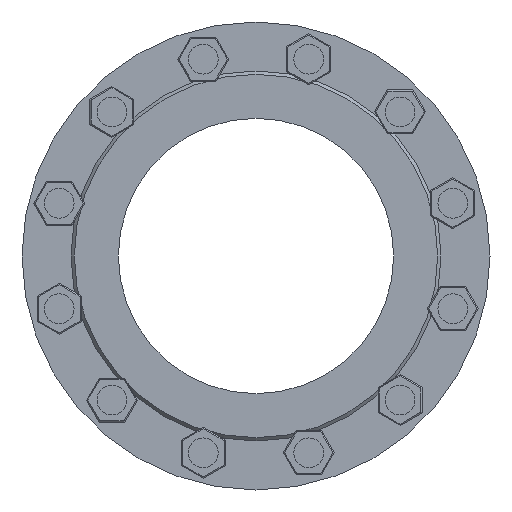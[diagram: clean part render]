
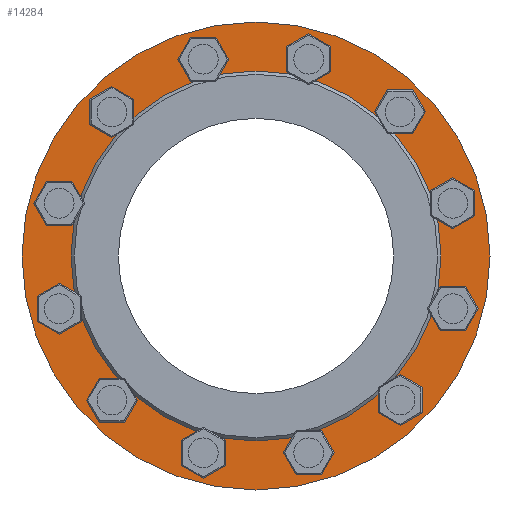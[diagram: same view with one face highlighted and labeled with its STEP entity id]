
A CAD part, left-side view. The second image highlights one B-rep face of the part: STEP entity #14284.
In plain terms, the highlighted planar face has unit normal (-1, 0, 0).
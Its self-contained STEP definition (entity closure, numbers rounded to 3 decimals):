
#301 = CIRCLE ( 'NONE', #26496, 13.5 ) ;
#421 = EDGE_LOOP ( 'NONE', ( #27396 ) ) ;
#924 = EDGE_LOOP ( 'NONE', ( #2177 ) ) ;
#1081 = CARTESIAN_POINT ( 'NONE',  ( 3., -130.815, 117.315 ) ) ;
#1361 = EDGE_LOOP ( 'NONE', ( #20922 ) ) ;
#1749 = AXIS2_PLACEMENT_3D ( 'NONE', #9776, #23772, #4163 ) ;
#1970 = AXIS2_PLACEMENT_3D ( 'NONE', #21593, #21777, #26814 ) ;
#2177 = ORIENTED_EDGE ( 'NONE', *, *, #23778, .T. ) ;
#2211 = DIRECTION ( 'NONE',  ( 0., 0., -1. ) ) ;
#2236 = AXIS2_PLACEMENT_3D ( 'NONE', #25914, #20147, #3147 ) ;
#2682 = CARTESIAN_POINT ( 'NONE',  ( 3., 130.815, -144.315 ) ) ;
#2756 = AXIS2_PLACEMENT_3D ( 'NONE', #4266, #24060, #32448 ) ;
#3147 = DIRECTION ( 'NONE',  ( 0., 0., -1. ) ) ;
#3573 = DIRECTION ( 'NONE',  ( -1., 0., 0. ) ) ;
#3716 = EDGE_CURVE ( 'NONE', #34837, #34837, #22414, .T. ) ;
#3984 = CIRCLE ( 'NONE', #24841, 13.5 ) ;
#4163 = DIRECTION ( 'NONE',  ( 0., 0., -1. ) ) ;
#4266 = CARTESIAN_POINT ( 'NONE',  ( 3., -130.815, 130.815 ) ) ;
#4417 = FACE_BOUND ( 'NONE', #29108, .T. ) ;
#4604 = VERTEX_POINT ( 'NONE', #15985 ) ;
#4787 = FACE_BOUND ( 'NONE', #6382, .T. ) ;
#5052 = EDGE_LOOP ( 'NONE', ( #28673 ) ) ;
#5186 = CARTESIAN_POINT ( 'NONE',  ( 3., -47.882, 178.696 ) ) ;
#6010 = CARTESIAN_POINT ( 'NONE',  ( 3., -47.882, -192.196 ) ) ;
#6325 = EDGE_LOOP ( 'NONE', ( #13004 ) ) ;
#6382 = EDGE_LOOP ( 'NONE', ( #25503 ) ) ;
#6474 = CARTESIAN_POINT ( 'NONE',  ( 3., 178.696, 47.882 ) ) ;
#6752 = EDGE_CURVE ( 'NONE', #33147, #33147, #30340, .T. ) ;
#6957 = CARTESIAN_POINT ( 'NONE',  ( 3., 130.815, 117.315 ) ) ;
#8066 = CARTESIAN_POINT ( 'NONE',  ( 3., -130.815, -144.315 ) ) ;
#8105 = CARTESIAN_POINT ( 'NONE',  ( 3., 47.882, -192.196 ) ) ;
#8296 = CARTESIAN_POINT ( 'NONE',  ( 3., 0., 212.5 ) ) ;
#8911 = DIRECTION ( 'NONE',  ( -1., 0., 0. ) ) ;
#8914 = DIRECTION ( 'NONE',  ( -1., 0., 0. ) ) ;
#9216 = VERTEX_POINT ( 'NONE', #20594 ) ;
#9456 = DIRECTION ( 'NONE',  ( -1., 0., 0. ) ) ;
#9606 = AXIS2_PLACEMENT_3D ( 'NONE', #5186, #27759, #2211 ) ;
#9725 = EDGE_CURVE ( 'NONE', #19541, #19541, #29796, .T. ) ;
#9776 = CARTESIAN_POINT ( 'NONE',  ( 3., -178.696, 47.882 ) ) ;
#9820 = EDGE_CURVE ( 'NONE', #4604, #4604, #27434, .T. ) ;
#10066 = AXIS2_PLACEMENT_3D ( 'NONE', #29213, #8914, #14134 ) ;
#10379 = EDGE_CURVE ( 'NONE', #16913, #16913, #19731, .T. ) ;
#10406 = PLANE ( 'NONE',  #1970 ) ;
#10589 = FACE_BOUND ( 'NONE', #421, .T. ) ;
#11377 = ORIENTED_EDGE ( 'NONE', *, *, #21709, .F. ) ;
#11465 = VERTEX_POINT ( 'NONE', #8105 ) ;
#11508 = CARTESIAN_POINT ( 'NONE',  ( 3., -178.696, -61.382 ) ) ;
#11875 = AXIS2_PLACEMENT_3D ( 'NONE', #14479, #33693, #25860 ) ;
#12377 = CARTESIAN_POINT ( 'NONE',  ( 3., -178.696, 34.382 ) ) ;
#12489 = CIRCLE ( 'NONE', #1749, 13.5 ) ;
#12645 = FACE_BOUND ( 'NONE', #5052, .T. ) ;
#13004 = ORIENTED_EDGE ( 'NONE', *, *, #24320, .F. ) ;
#13902 = ORIENTED_EDGE ( 'NONE', *, *, #25738, .F. ) ;
#14052 = DIRECTION ( 'NONE',  ( -1., 0., 0. ) ) ;
#14134 = DIRECTION ( 'NONE',  ( 0., 0., 1. ) ) ;
#14284 = ADVANCED_FACE ( 'NONE', ( #21409, #29788, #32596, #4417, #27183, #30160, #10589, #21967, #12645, #33337, #35571, #19170, #4787, #15436 ), #10406, .F. ) ;
#14479 = CARTESIAN_POINT ( 'NONE',  ( 3., 47.882, 178.696 ) ) ;
#14564 = ORIENTED_EDGE ( 'NONE', *, *, #31740, .F. ) ;
#14948 = DIRECTION ( 'NONE',  ( 0., 0., 1. ) ) ;
#15085 = DIRECTION ( 'NONE',  ( -1., 0., 0. ) ) ;
#15436 = FACE_OUTER_BOUND ( 'NONE', #924, .T. ) ;
#15774 = DIRECTION ( 'NONE',  ( -1., 0., 0. ) ) ;
#15837 = ORIENTED_EDGE ( 'NONE', *, *, #3716, .F. ) ;
#15985 = CARTESIAN_POINT ( 'NONE',  ( 3., 178.696, -61.382 ) ) ;
#16370 = ORIENTED_EDGE ( 'NONE', *, *, #10379, .F. ) ;
#16531 = CIRCLE ( 'NONE', #2236, 13.5 ) ;
#16867 = VERTEX_POINT ( 'NONE', #2682 ) ;
#16913 = VERTEX_POINT ( 'NONE', #11508 ) ;
#17754 = CARTESIAN_POINT ( 'NONE',  ( 3., 0., 0. ) ) ;
#17917 = AXIS2_PLACEMENT_3D ( 'NONE', #28217, #14052, #23195 ) ;
#19170 = FACE_BOUND ( 'NONE', #35270, .T. ) ;
#19541 = VERTEX_POINT ( 'NONE', #30905 ) ;
#19725 = ORIENTED_EDGE ( 'NONE', *, *, #26441, .F. ) ;
#19731 = CIRCLE ( 'NONE', #34018, 13.5 ) ;
#19822 = DIRECTION ( 'NONE',  ( 0., 0., -1. ) ) ;
#20016 = VERTEX_POINT ( 'NONE', #8066 ) ;
#20147 = DIRECTION ( 'NONE',  ( -1., 0., 0. ) ) ;
#20594 = CARTESIAN_POINT ( 'NONE',  ( 3., -47.882, 165.196 ) ) ;
#20699 = CARTESIAN_POINT ( 'NONE',  ( 3., -178.696, -47.882 ) ) ;
#20922 = ORIENTED_EDGE ( 'NONE', *, *, #6752, .F. ) ;
#21409 = FACE_BOUND ( 'NONE', #36469, .T. ) ;
#21471 = AXIS2_PLACEMENT_3D ( 'NONE', #32570, #15774, #27151 ) ;
#21593 = CARTESIAN_POINT ( 'NONE',  ( 3., 168., 0. ) ) ;
#21709 = EDGE_CURVE ( 'NONE', #16867, #16867, #3984, .T. ) ;
#21777 = DIRECTION ( 'NONE',  ( 1., 0., 0. ) ) ;
#21967 = FACE_BOUND ( 'NONE', #22669, .T. ) ;
#22217 = EDGE_CURVE ( 'NONE', #11465, #11465, #16531, .T. ) ;
#22354 = AXIS2_PLACEMENT_3D ( 'NONE', #34807, #31841, #25874 ) ;
#22414 = CIRCLE ( 'NONE', #2756, 13.5 ) ;
#22420 = CARTESIAN_POINT ( 'NONE',  ( 3., 130.815, -130.815 ) ) ;
#22669 = EDGE_LOOP ( 'NONE', ( #14564 ) ) ;
#23195 = DIRECTION ( 'NONE',  ( 0., 0., -1. ) ) ;
#23576 = AXIS2_PLACEMENT_3D ( 'NONE', #17754, #3573, #14948 ) ;
#23772 = DIRECTION ( 'NONE',  ( -1., 0., 0. ) ) ;
#23778 = EDGE_CURVE ( 'NONE', #33840, #33840, #36284, .T. ) ;
#24060 = DIRECTION ( 'NONE',  ( -1., 0., 0. ) ) ;
#24320 = EDGE_CURVE ( 'NONE', #31963, #31963, #12489, .T. ) ;
#24575 = CARTESIAN_POINT ( 'NONE',  ( 3., 47.882, 165.196 ) ) ;
#24841 = AXIS2_PLACEMENT_3D ( 'NONE', #22420, #33796, #19822 ) ;
#25043 = VERTEX_POINT ( 'NONE', #36408 ) ;
#25335 = CIRCLE ( 'NONE', #22354, 13.5 ) ;
#25503 = ORIENTED_EDGE ( 'NONE', *, *, #32184, .F. ) ;
#25738 = EDGE_CURVE ( 'NONE', #32506, #32506, #29826, .T. ) ;
#25783 = VERTEX_POINT ( 'NONE', #6010 ) ;
#25860 = DIRECTION ( 'NONE',  ( 0., 0., -1. ) ) ;
#25874 = DIRECTION ( 'NONE',  ( 0., 0., -1. ) ) ;
#25914 = CARTESIAN_POINT ( 'NONE',  ( 3., 47.882, -178.696 ) ) ;
#26441 = EDGE_CURVE ( 'NONE', #9216, #9216, #27455, .T. ) ;
#26496 = AXIS2_PLACEMENT_3D ( 'NONE', #26598, #8911, #35171 ) ;
#26598 = CARTESIAN_POINT ( 'NONE',  ( 3., -47.882, -178.696 ) ) ;
#26814 = DIRECTION ( 'NONE',  ( 0., 0., -1. ) ) ;
#27151 = DIRECTION ( 'NONE',  ( 0., 0., -1. ) ) ;
#27183 = FACE_BOUND ( 'NONE', #6325, .T. ) ;
#27396 = ORIENTED_EDGE ( 'NONE', *, *, #31677, .F. ) ;
#27434 = CIRCLE ( 'NONE', #21471, 13.5 ) ;
#27455 = CIRCLE ( 'NONE', #9606, 13.5 ) ;
#27516 = ORIENTED_EDGE ( 'NONE', *, *, #9820, .F. ) ;
#27759 = DIRECTION ( 'NONE',  ( -1., 0., 0. ) ) ;
#28217 = CARTESIAN_POINT ( 'NONE',  ( 3., 130.815, 130.815 ) ) ;
#28484 = DIRECTION ( 'NONE',  ( 0., 0., -1. ) ) ;
#28673 = ORIENTED_EDGE ( 'NONE', *, *, #22217, .F. ) ;
#28946 = EDGE_LOOP ( 'NONE', ( #16370 ) ) ;
#29108 = EDGE_LOOP ( 'NONE', ( #15837 ) ) ;
#29204 = ORIENTED_EDGE ( 'NONE', *, *, #9725, .F. ) ;
#29213 = CARTESIAN_POINT ( 'NONE',  ( 3., 0., 0. ) ) ;
#29492 = CIRCLE ( 'NONE', #23576, 168. ) ;
#29788 = FACE_BOUND ( 'NONE', #1361, .T. ) ;
#29796 = CIRCLE ( 'NONE', #31603, 13.5 ) ;
#29826 = CIRCLE ( 'NONE', #17917, 13.5 ) ;
#30160 = FACE_BOUND ( 'NONE', #28946, .T. ) ;
#30340 = CIRCLE ( 'NONE', #11875, 13.5 ) ;
#30415 = EDGE_LOOP ( 'NONE', ( #19725 ) ) ;
#30905 = CARTESIAN_POINT ( 'NONE',  ( 3., 178.696, 34.382 ) ) ;
#31433 = EDGE_LOOP ( 'NONE', ( #27516 ) ) ;
#31603 = AXIS2_PLACEMENT_3D ( 'NONE', #6474, #9456, #28484 ) ;
#31677 = EDGE_CURVE ( 'NONE', #20016, #20016, #25335, .T. ) ;
#31740 = EDGE_CURVE ( 'NONE', #25783, #25783, #301, .T. ) ;
#31841 = DIRECTION ( 'NONE',  ( -1., 0., 0. ) ) ;
#31963 = VERTEX_POINT ( 'NONE', #12377 ) ;
#32184 = EDGE_CURVE ( 'NONE', #25043, #25043, #29492, .T. ) ;
#32448 = DIRECTION ( 'NONE',  ( 0., 0., -1. ) ) ;
#32506 = VERTEX_POINT ( 'NONE', #6957 ) ;
#32570 = CARTESIAN_POINT ( 'NONE',  ( 3., 178.696, -47.882 ) ) ;
#32596 = FACE_BOUND ( 'NONE', #30415, .T. ) ;
#33147 = VERTEX_POINT ( 'NONE', #24575 ) ;
#33337 = FACE_BOUND ( 'NONE', #35641, .T. ) ;
#33693 = DIRECTION ( 'NONE',  ( -1., 0., 0. ) ) ;
#33796 = DIRECTION ( 'NONE',  ( -1., 0., 0. ) ) ;
#33840 = VERTEX_POINT ( 'NONE', #8296 ) ;
#34018 = AXIS2_PLACEMENT_3D ( 'NONE', #20699, #15085, #34857 ) ;
#34807 = CARTESIAN_POINT ( 'NONE',  ( 3., -130.815, -130.815 ) ) ;
#34837 = VERTEX_POINT ( 'NONE', #1081 ) ;
#34857 = DIRECTION ( 'NONE',  ( 0., 0., -1. ) ) ;
#35171 = DIRECTION ( 'NONE',  ( 0., 0., -1. ) ) ;
#35270 = EDGE_LOOP ( 'NONE', ( #29204 ) ) ;
#35571 = FACE_BOUND ( 'NONE', #31433, .T. ) ;
#35641 = EDGE_LOOP ( 'NONE', ( #11377 ) ) ;
#36284 = CIRCLE ( 'NONE', #10066, 212.5 ) ;
#36408 = CARTESIAN_POINT ( 'NONE',  ( 3., 0., 168. ) ) ;
#36469 = EDGE_LOOP ( 'NONE', ( #13902 ) ) ;
